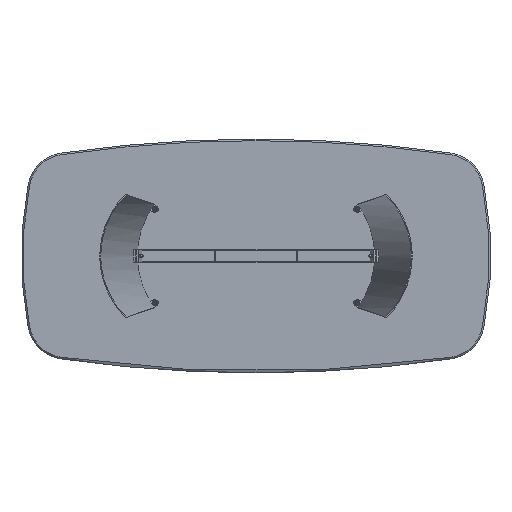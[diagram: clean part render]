
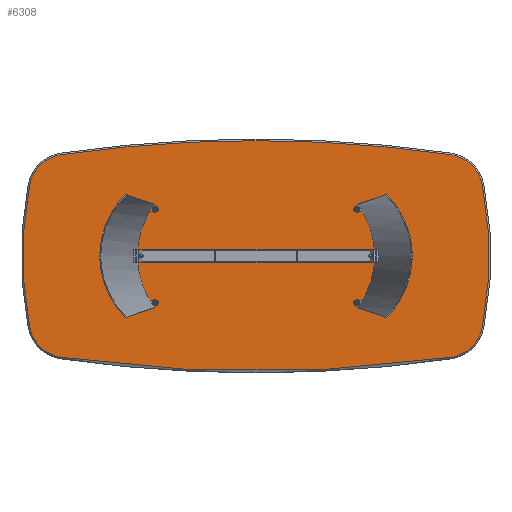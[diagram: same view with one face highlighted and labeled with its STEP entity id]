
A CAD part, front view. The second image highlights one B-rep face of the part: STEP entity #6308.
In plain terms, the highlighted planar face has unit normal (0, -1, 0).
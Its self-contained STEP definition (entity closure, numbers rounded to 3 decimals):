
#108 = EDGE_CURVE ( 'NONE', #10720, #3873, #6223, .T. ) ;
#149 = DIRECTION ( 'NONE',  ( 0., -1., 0. ) ) ;
#445 = CARTESIAN_POINT ( 'NONE',  ( 963.472, 0., -325.885 ) ) ;
#614 = CARTESIAN_POINT ( 'NONE',  ( 990.878, 0., 515.919 ) ) ;
#647 = DIRECTION ( 'NONE',  ( 0., -1., 0. ) ) ;
#725 = CIRCLE ( 'NONE', #3183, 192. ) ;
#796 = EDGE_CURVE ( 'NONE', #8769, #9185, #5879, .T. ) ;
#1096 = CARTESIAN_POINT ( 'NONE',  ( 1151.911, 0., 362.691 ) ) ;
#1247 = CIRCLE ( 'NONE', #8933, 1892. ) ;
#1398 = ORIENTED_EDGE ( 'NONE', *, *, #796, .T. ) ;
#1427 = DIRECTION ( 'NONE',  ( 0., -1., 0. ) ) ;
#1653 = CARTESIAN_POINT ( 'NONE',  ( -1151.911, 0., -362.691 ) ) ;
#1706 = DIRECTION ( 'NONE',  ( 0., 1., 0. ) ) ;
#1728 = CARTESIAN_POINT ( 'NONE',  ( -990.878, 0., -515.919 ) ) ;
#1745 = EDGE_CURVE ( 'NONE', #4997, #5343, #6437, .T. ) ;
#2043 = DIRECTION ( 'NONE',  ( 0., -1., 0. ) ) ;
#2185 = CARTESIAN_POINT ( 'NONE',  ( -963.472, 0., -325.885 ) ) ;
#2187 = DIRECTION ( 'NONE',  ( 0., 0., 1. ) ) ;
#2193 = FACE_OUTER_BOUND ( 'NONE', #3348, .T. ) ;
#2259 = EDGE_CURVE ( 'NONE', #9185, #10720, #4743, .T. ) ;
#2805 = CARTESIAN_POINT ( 'NONE',  ( -705., 0., 0. ) ) ;
#2910 = EDGE_CURVE ( 'NONE', #3873, #4997, #1247, .T. ) ;
#3107 = AXIS2_PLACEMENT_3D ( 'NONE', #2185, #1427, #3124 ) ;
#3124 = DIRECTION ( 'NONE',  ( 0., 0., 1. ) ) ;
#3183 = AXIS2_PLACEMENT_3D ( 'NONE', #3978, #10647, #10754 ) ;
#3187 = ORIENTED_EDGE ( 'NONE', *, *, #3950, .T. ) ;
#3311 = DIRECTION ( 'NONE',  ( 0., -1., 0. ) ) ;
#3348 = EDGE_LOOP ( 'NONE', ( #8290, #8019, #10589, #5320, #3187, #1398, #7988, #4229, #7558 ) ) ;
#3632 = CIRCLE ( 'NONE', #7147, 1892. ) ;
#3659 = EDGE_CURVE ( 'NONE', #5343, #6794, #7032, .T. ) ;
#3749 = DIRECTION ( 'NONE',  ( 0., 0., 1. ) ) ;
#3873 = VERTEX_POINT ( 'NONE', #6451 ) ;
#3950 = EDGE_CURVE ( 'NONE', #6467, #8769, #725, .T. ) ;
#3978 = CARTESIAN_POINT ( 'NONE',  ( 963.472, 0., 325.885 ) ) ;
#4229 = ORIENTED_EDGE ( 'NONE', *, *, #108, .T. ) ;
#4743 = CIRCLE ( 'NONE', #10504, 6942. ) ;
#4997 = VERTEX_POINT ( 'NONE', #1653 ) ;
#5073 = DIRECTION ( 'NONE',  ( 0., 0., 1. ) ) ;
#5172 = AXIS2_PLACEMENT_3D ( 'NONE', #8108, #647, #2187 ) ;
#5320 = ORIENTED_EDGE ( 'NONE', *, *, #8475, .T. ) ;
#5343 = VERTEX_POINT ( 'NONE', #1728 ) ;
#5568 = CIRCLE ( 'NONE', #10287, 192. ) ;
#5879 = CIRCLE ( 'NONE', #5172, 6942. ) ;
#5932 = DIRECTION ( 'NONE',  ( 0., 0., 1. ) ) ;
#6223 = CIRCLE ( 'NONE', #10574, 192. ) ;
#6308 = ADVANCED_FACE ( 'NONE', ( #2193 ), #8873, .F. ) ;
#6437 = CIRCLE ( 'NONE', #3107, 192. ) ;
#6451 = CARTESIAN_POINT ( 'NONE',  ( -1151.911, 0., 362.691 ) ) ;
#6467 = VERTEX_POINT ( 'NONE', #1096 ) ;
#6794 = VERTEX_POINT ( 'NONE', #8409 ) ;
#7032 = CIRCLE ( 'NONE', #8232, 6942. ) ;
#7067 = CARTESIAN_POINT ( 'NONE',  ( 0., 0., -6355. ) ) ;
#7111 = CARTESIAN_POINT ( 'NONE',  ( 1151.911, 0., -362.691 ) ) ;
#7147 = AXIS2_PLACEMENT_3D ( 'NONE', #2805, #8974, #8366 ) ;
#7212 = DIRECTION ( 'NONE',  ( 0., 0., 1. ) ) ;
#7430 = CARTESIAN_POINT ( 'NONE',  ( -990.878, 0., 515.919 ) ) ;
#7558 = ORIENTED_EDGE ( 'NONE', *, *, #2910, .T. ) ;
#7988 = ORIENTED_EDGE ( 'NONE', *, *, #2259, .T. ) ;
#8007 = DIRECTION ( 'NONE',  ( 0., -1., 0. ) ) ;
#8019 = ORIENTED_EDGE ( 'NONE', *, *, #3659, .T. ) ;
#8108 = CARTESIAN_POINT ( 'NONE',  ( 0., 0., -6355. ) ) ;
#8232 = AXIS2_PLACEMENT_3D ( 'NONE', #9401, #149, #10276 ) ;
#8290 = ORIENTED_EDGE ( 'NONE', *, *, #1745, .T. ) ;
#8366 = DIRECTION ( 'NONE',  ( 0., 0., 1. ) ) ;
#8409 = CARTESIAN_POINT ( 'NONE',  ( 990.878, 0., -515.919 ) ) ;
#8475 = EDGE_CURVE ( 'NONE', #10543, #6467, #3632, .T. ) ;
#8769 = VERTEX_POINT ( 'NONE', #614 ) ;
#8779 = CARTESIAN_POINT ( 'NONE',  ( 0., 0., 587. ) ) ;
#8873 = PLANE ( 'NONE',  #10608 ) ;
#8933 = AXIS2_PLACEMENT_3D ( 'NONE', #9660, #2043, #3749 ) ;
#8974 = DIRECTION ( 'NONE',  ( 0., -1., 0. ) ) ;
#9185 = VERTEX_POINT ( 'NONE', #8779 ) ;
#9219 = EDGE_CURVE ( 'NONE', #6794, #10543, #5568, .T. ) ;
#9401 = CARTESIAN_POINT ( 'NONE',  ( 0., 0., 6355. ) ) ;
#9614 = DIRECTION ( 'NONE',  ( 0., -1., 0. ) ) ;
#9660 = CARTESIAN_POINT ( 'NONE',  ( 705., 0., 0. ) ) ;
#10038 = CARTESIAN_POINT ( 'NONE',  ( -963.472, 0., 325.885 ) ) ;
#10276 = DIRECTION ( 'NONE',  ( 0., 0., 1. ) ) ;
#10287 = AXIS2_PLACEMENT_3D ( 'NONE', #445, #8007, #7212 ) ;
#10328 = DIRECTION ( 'NONE',  ( 0., 0., 1. ) ) ;
#10504 = AXIS2_PLACEMENT_3D ( 'NONE', #7067, #9614, #10328 ) ;
#10543 = VERTEX_POINT ( 'NONE', #7111 ) ;
#10574 = AXIS2_PLACEMENT_3D ( 'NONE', #10038, #3311, #5073 ) ;
#10589 = ORIENTED_EDGE ( 'NONE', *, *, #9219, .T. ) ;
#10608 = AXIS2_PLACEMENT_3D ( 'NONE', #10625, #1706, #5932 ) ;
#10625 = CARTESIAN_POINT ( 'NONE',  ( -352.5, 0., 3177.5 ) ) ;
#10647 = DIRECTION ( 'NONE',  ( 0., -1., 0. ) ) ;
#10720 = VERTEX_POINT ( 'NONE', #7430 ) ;
#10754 = DIRECTION ( 'NONE',  ( 0., 0., 1. ) ) ;
